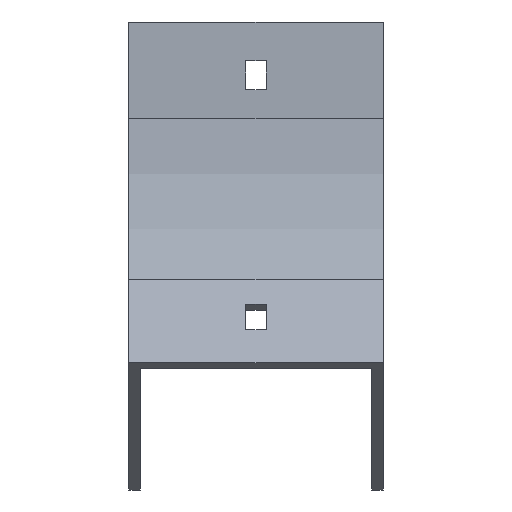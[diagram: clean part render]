
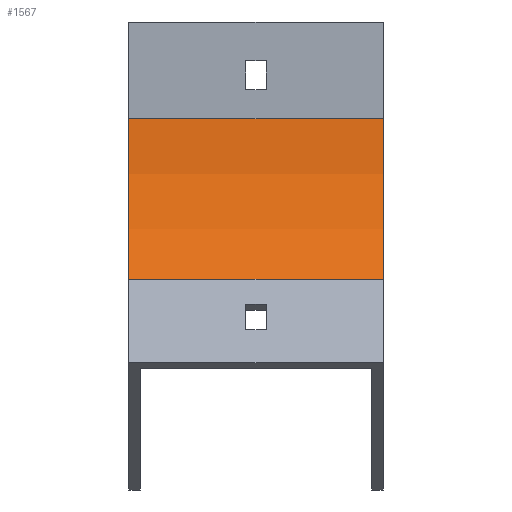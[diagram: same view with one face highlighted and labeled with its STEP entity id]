
A CAD part, front view. The second image highlights one B-rep face of the part: STEP entity #1567.
In plain terms, the highlighted cylindrical face has radius 100 mm (diameter 200 mm), a partial arc.
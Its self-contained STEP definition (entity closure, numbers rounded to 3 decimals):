
#25 = EDGE_LOOP ( 'NONE', ( #1254, #827, #1115, #1432 ) ) ;
#84 = VERTEX_POINT ( 'NONE', #268 ) ;
#150 = VECTOR ( 'NONE', #1486, 1000. ) ;
#234 = LINE ( 'NONE', #1436, #1334 ) ;
#268 = CARTESIAN_POINT ( 'NONE',  ( 39.5, -13.397, -80. ) ) ;
#332 = DIRECTION ( 'NONE',  ( 0., 0., 1. ) ) ;
#375 = CARTESIAN_POINT ( 'NONE',  ( -39.5, -13.397, -80. ) ) ;
#428 = CARTESIAN_POINT ( 'NONE',  ( 39.5, 0., -30. ) ) ;
#442 = VERTEX_POINT ( 'NONE', #1020 ) ;
#476 = FACE_OUTER_BOUND ( 'NONE', #25, .T. ) ;
#530 = EDGE_CURVE ( 'NONE', #1771, #442, #1458, .T. ) ;
#545 = DIRECTION ( 'NONE',  ( -1., 0., 0. ) ) ;
#622 = CARTESIAN_POINT ( 'NONE',  ( 39.5, -100., -30. ) ) ;
#681 = DIRECTION ( 'NONE',  ( -1., 0., 0. ) ) ;
#790 = CARTESIAN_POINT ( 'NONE',  ( -39.5, -100., -30. ) ) ;
#827 = ORIENTED_EDGE ( 'NONE', *, *, #1607, .F. ) ;
#849 = DIRECTION ( 'NONE',  ( 0., 0., 1. ) ) ;
#1020 = CARTESIAN_POINT ( 'NONE',  ( -39.5, 0., -30. ) ) ;
#1084 = DIRECTION ( 'NONE',  ( -1., 0., 0. ) ) ;
#1115 = ORIENTED_EDGE ( 'NONE', *, *, #1655, .F. ) ;
#1175 = CIRCLE ( 'NONE', #1495, 100. ) ;
#1228 = EDGE_CURVE ( 'NONE', #442, #1944, #1828, .T. ) ;
#1254 = ORIENTED_EDGE ( 'NONE', *, *, #1228, .T. ) ;
#1300 = DIRECTION ( 'NONE',  ( 0., 0., 1. ) ) ;
#1334 = VECTOR ( 'NONE', #681, 1000. ) ;
#1365 = AXIS2_PLACEMENT_3D ( 'NONE', #622, #1084, #332 ) ;
#1400 = DIRECTION ( 'NONE',  ( -1., 0., 0. ) ) ;
#1432 = ORIENTED_EDGE ( 'NONE', *, *, #530, .T. ) ;
#1436 = CARTESIAN_POINT ( 'NONE',  ( 39.5, -13.397, -80. ) ) ;
#1458 = LINE ( 'NONE', #428, #150 ) ;
#1486 = DIRECTION ( 'NONE',  ( -1., 0., 0. ) ) ;
#1495 = AXIS2_PLACEMENT_3D ( 'NONE', #1912, #545, #849 ) ;
#1528 = CYLINDRICAL_SURFACE ( 'NONE', #1365, 100. ) ;
#1567 = ADVANCED_FACE ( 'NONE', ( #476 ), #1528, .F. ) ;
#1607 = EDGE_CURVE ( 'NONE', #84, #1944, #234, .T. ) ;
#1653 = CARTESIAN_POINT ( 'NONE',  ( 39.5, 0., -30. ) ) ;
#1655 = EDGE_CURVE ( 'NONE', #1771, #84, #1175, .T. ) ;
#1705 = AXIS2_PLACEMENT_3D ( 'NONE', #790, #1400, #1300 ) ;
#1771 = VERTEX_POINT ( 'NONE', #1653 ) ;
#1828 = CIRCLE ( 'NONE', #1705, 100. ) ;
#1912 = CARTESIAN_POINT ( 'NONE',  ( 39.5, -100., -30. ) ) ;
#1944 = VERTEX_POINT ( 'NONE', #375 ) ;
